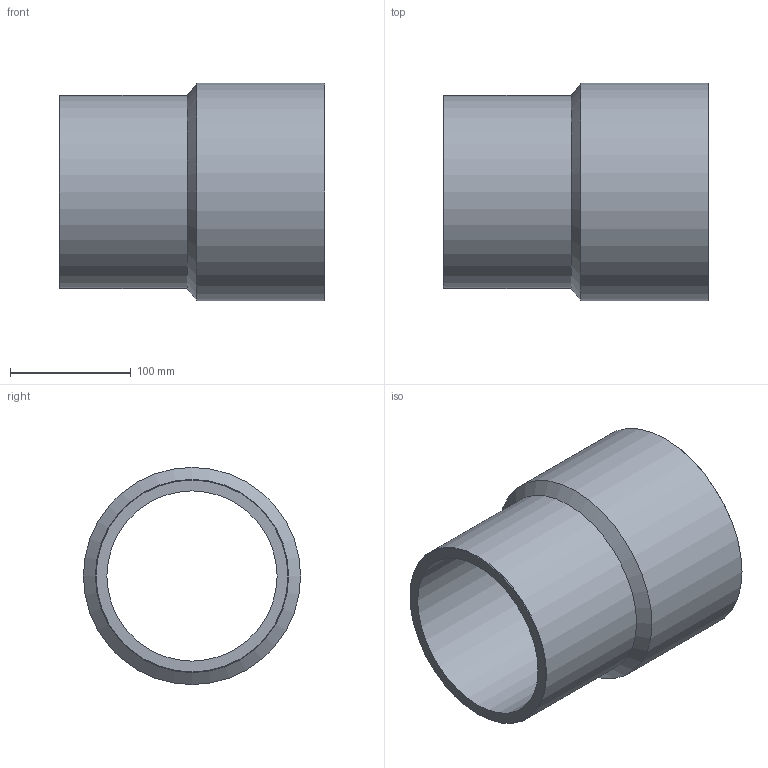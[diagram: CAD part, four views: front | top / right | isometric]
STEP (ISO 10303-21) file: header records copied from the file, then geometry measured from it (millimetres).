
FILE_DESCRIPTION(/* description */ ('Unknown'),/* implementation_level */ '2;1');
FILE_NAME(/* name */ 'RP180160B',/* time_stamp */ '2021-09-17T11:36:23+02:00',/* author */ ('Unknown'),/* organization */ ('Unknown'),/* preprocessor_version */ 'ST-DEVELOPER v16.7',/* originating_system */ 'Solid Edge',/* authorisation */ 'Unknown');
FILE_SCHEMA (('AUTOMOTIVE_DESIGN {1 0 10303 214 3 1 1}'));
Length unit declared in the file: millimetre
Products named in the file (1): RP180160B
Bounding box: 220 x 180 x 180 mm (x, y, z)
Volume: 1146993 mm3; surface area: 234376.5 mm2
Topology: 1 solids, 1 shells, 10 faces, 19 edges, 11 vertices
Faces by surface type: cylinder 4, cone 4, plane 2
Full cylindrical faces by diameter (mm): 141 x1, 158.6 x1, 160 x1, 180 x1
Entity records: 238 total; most frequent: DIRECTION 42, CARTESIAN_POINT 31, AXIS2_PLACEMENT_3D 21, ORIENTED_EDGE 20, EDGE_LOOP 20, FACE_BOUND 20, EDGE_CURVE 10, VERTEX_POINT 10
